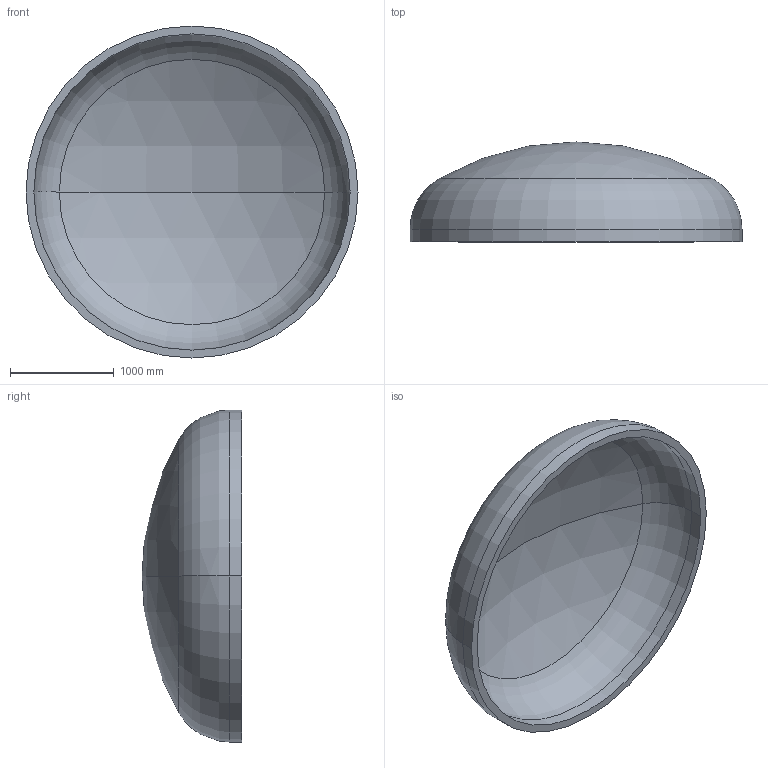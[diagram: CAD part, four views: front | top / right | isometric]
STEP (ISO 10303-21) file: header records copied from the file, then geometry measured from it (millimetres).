
FILE_DESCRIPTION (( 'STEP AP203' ), '1' );
FILE_NAME ('DIN 28013 Korbbogenform_-_Boden DIN 28013 - 3200 x 120 - I - s=76.step', '2016-07-01T18:50:49', ( '' ), ( '' ), 'SwSTEP 2.0', 'SolidWorks 2013', '' );
FILE_SCHEMA (( 'CONFIG_CONTROL_DESIGN' ));
Length unit declared in the file: millimetre
Products named in the file (1): DIN 28013 Korbbogenform_-_Boden DIN 28013 - 3200 x 120 - I - s=76
Bounding box: 3200 x 962.75 x 3200 mm (x, y, z)
Volume: 909130649.3 mm3; surface area: 24682469.4 mm2
Topology: 1 solids, 1 shells, 13 faces, 24 edges, 14 vertices
Faces by surface type: torus 4, cylinder 4, sphere 4, plane 1
Entity records: 407 total; most frequent: DIRECTION 72, CARTESIAN_POINT 52, ORIENTED_EDGE 48, AXIS2_PLACEMENT_3D 34, EDGE_CURVE 24, CIRCLE 20, EDGE_LOOP 14, VERTEX_POINT 14
